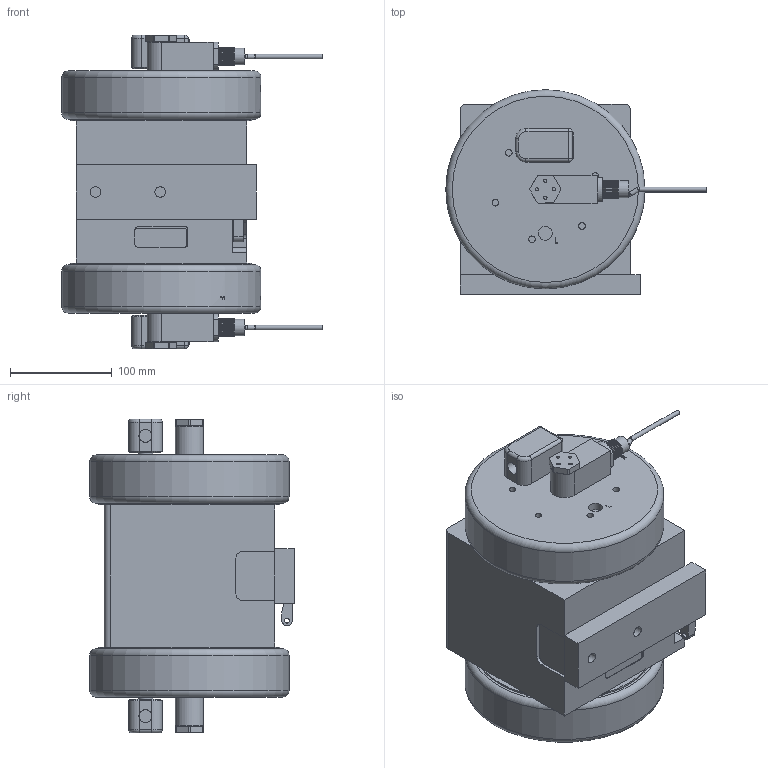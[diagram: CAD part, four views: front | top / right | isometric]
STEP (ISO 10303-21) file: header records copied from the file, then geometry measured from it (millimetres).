
FILE_DESCRIPTION (( 'STEP AP214' ), '1' );
FILE_NAME ('PXU060_solid model.STEP', '2013-07-24T22:19:57', ( '' ), ( '' ), 'SwSTEP 2.0', 'SolidWorks 2012', '' );
FILE_SCHEMA (( 'AUTOMOTIVE_DESIGN' ));
Length unit declared in the file: inch
Products named in the file (1): PXU060_solid model
Bounding box: 255.78 x 200.58 x 308.11 mm (x, y, z)
Volume: 7152993.3 mm3; surface area: 295942.6 mm2
Topology: 1 solids, 1 shells, 1198 faces, 2985 edges, 1937 vertices
Faces by surface type: plane 820, cylinder 151, bspline 120, cone 89, torus 14, sphere 4
Full cylindrical faces by diameter (mm): 3.175 x4, 3.251 x24, 3.302 x4, 4.445 x7, 4.902 x1, 6.528 x12, 10.312 x2, 12.725 x2, 13.554 x2, 14.656 x2, 16.408 x2, 19.475 x1, 19.923 x1, 20.876 x1, 22.25 x2, 25.19 x2, 31.75 x2, 50.216 x1, 177.648 x2, 195.58 x2
Entity records: 42214 total; most frequent: CARTESIAN_POINT 13224, ORIENTED_EDGE 5606, DIRECTION 5180, EDGE_CURVE 2803, LINE 2092, VECTOR 2092, VERTEX_POINT 1920, AXIS2_PLACEMENT_3D 1544
